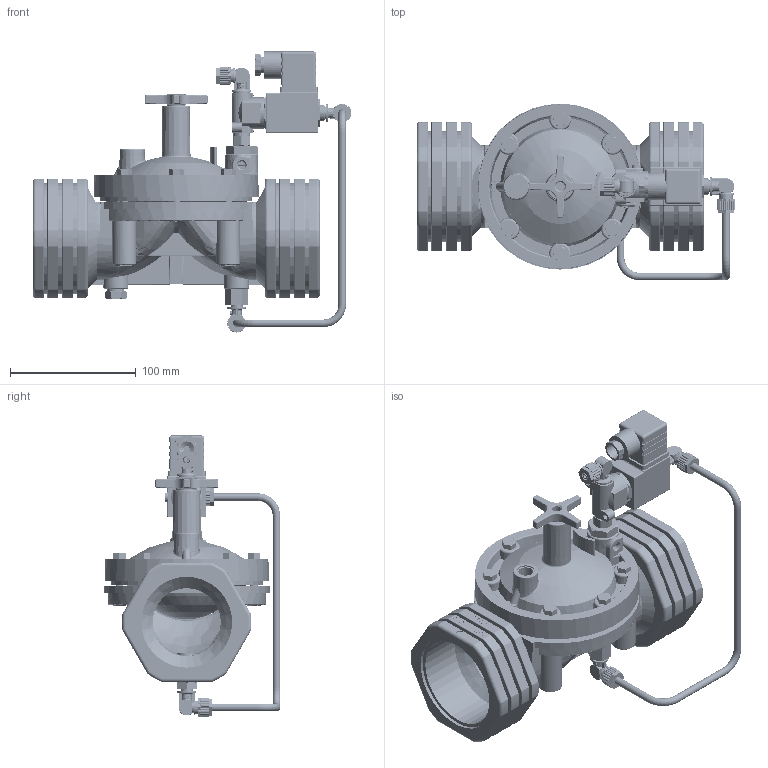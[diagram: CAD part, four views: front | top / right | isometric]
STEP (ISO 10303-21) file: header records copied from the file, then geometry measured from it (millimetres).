
FILE_DESCRIPTION(('STEP AP214'),'1');
FILE_NAME('7757525310T','2012-09-05T05:37:14',('dafnaraz'),(' '),'Spatial InterOp 3D',' ',' ');
FILE_SCHEMA(('automotive_design'));
Length unit declared in the file: millimetre
Products named in the file (34): 7757525310T.1; body2 1_2; dia21; koshya; bonnet bac-t-3W; 14x72; 14x38; un14; pkanpt14; 6476; adapter; union-1_4; solo-3w-2; body; solo1; solo2; zpc1-8x6; filter1-4x1-8; body_1; screen; se67995; zpc1-4x6; 6mm; pipe
Assembly tree (35 placements, depth 3):
  7757525310T.1
    body2 1_2
    dia21
    koshya
    bonnet bac-t-3W
    14x72
    14x38
    un14
    pkanpt14
    un14
    14x72
    14x72
    14x72
    14x38
    un14
    un14
    un14
    un14
    6476
    adapter
    union-1_4
    solo-3w-2
      body
      solo1
      solo2
    zpc1-8x6
    zpc1-8x6
    filter1-4x1-8
      body_1
      screen
      se67995
    zpc1-4x6
    6mm  x3
    pipe
Bounding box: 253.55 x 140.4 x 223.6 mm (x, y, z)
Volume: 785176.9 mm3; surface area: 332825.7 mm2
Topology: 19 solids, 531 shells, 5838 faces, 17209 edges, 11905 vertices
Faces by surface type: cylinder 3123, plane 1080, torus 831, bspline 352, cone 331, extrusion 100, sphere 20, revolution 1
Entity records: 381896 total; most frequent: CARTESIAN_POINT 148446, ORIENTED_EDGE 28868, DIRECTION 23589, STYLED_ITEM 16598, PRESENTATION_STYLE_ASSIGNMENT 16598, COLOUR_RGB 16598, EDGE_CURVE 15162, CURVE_STYLE 10971
